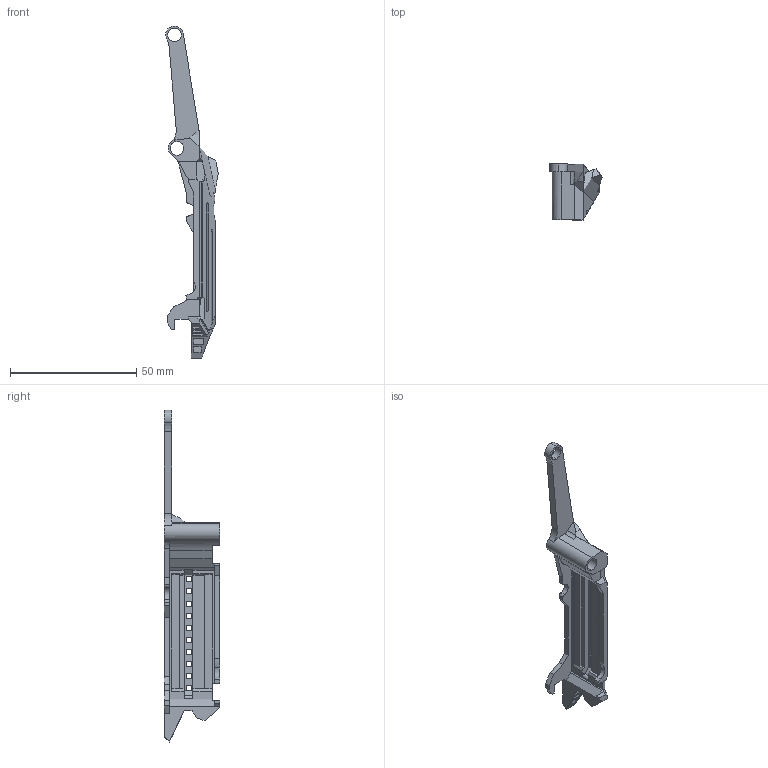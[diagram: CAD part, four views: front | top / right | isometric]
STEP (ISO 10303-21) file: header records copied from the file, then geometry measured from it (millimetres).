
FILE_DESCRIPTION (( 'STEP AP203' ), '1' );
FILE_NAME ('耜啣.STEP', '2025-06-06T05:24:31', ( 'User' ), ( 'China' ), 'SwSTEP 2.0', 'SolidWorks 2024', '' );
FILE_SCHEMA (( 'CONFIG_CONTROL_DESIGN' ));
Length unit declared in the file: millimetre
Products named in the file (1): 侧板
Bounding box: 20.8 x 22 x 131.57 mm (x, y, z)
Volume: 8413 mm3; surface area: 7955.1 mm2
Topology: 1 solids, 1 shells, 273 faces, 781 edges, 517 vertices
Faces by surface type: plane 254, cylinder 19
Entity records: 8872 total; most frequent: CARTESIAN_POINT 1575, ORIENTED_EDGE 1562, DIRECTION 1368, EDGE_CURVE 781, LINE 740, VECTOR 740, VERTEX_POINT 517, AXIS2_PLACEMENT_3D 314
